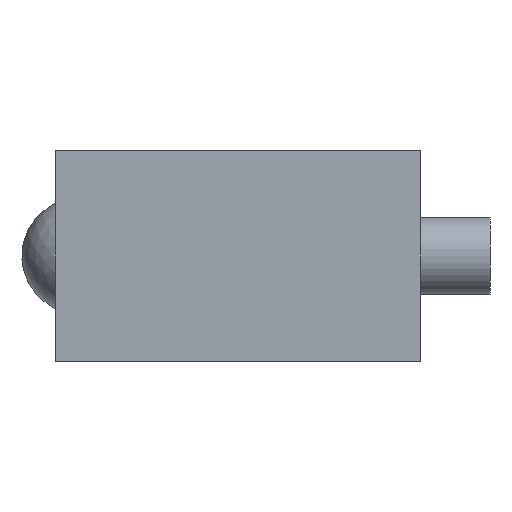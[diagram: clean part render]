
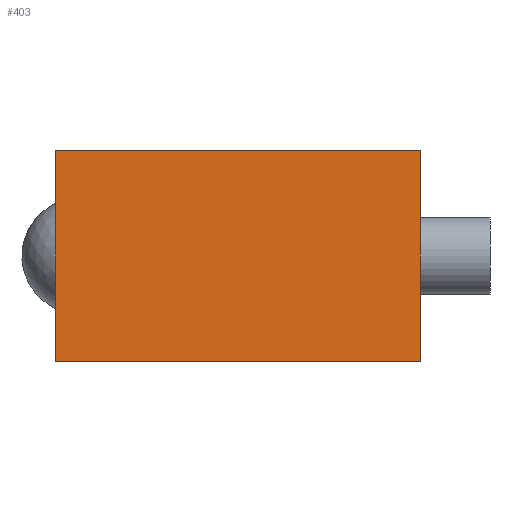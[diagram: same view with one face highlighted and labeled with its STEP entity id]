
A CAD part, left-side view. The second image highlights one B-rep face of the part: STEP entity #403.
In plain terms, the highlighted planar face has unit normal (-1, 0, 0).
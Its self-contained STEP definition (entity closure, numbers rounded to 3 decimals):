
#21=LINE('',#667,#37);
#27=LINE('',#682,#43);
#31=LINE('',#694,#47);
#33=LINE('',#697,#49);
#37=VECTOR('',#564,10.);
#43=VECTOR('',#574,10.);
#47=VECTOR('',#590,10.);
#49=VECTOR('',#594,10.);
#80=PLANE('',#475);
#108=FACE_OUTER_BOUND('',#154,.T.);
#154=EDGE_LOOP('',(#321,#322,#323,#324));
#202=VERTEX_POINT('',#665);
#203=VERTEX_POINT('',#666);
#209=VERTEX_POINT('',#679);
#210=VERTEX_POINT('',#681);
#236=EDGE_CURVE('',#202,#203,#21,.T.);
#243=EDGE_CURVE('',#209,#210,#27,.T.);
#249=EDGE_CURVE('',#210,#202,#31,.T.);
#251=EDGE_CURVE('',#203,#209,#33,.T.);
#321=ORIENTED_EDGE('',*,*,#243,.F.);
#322=ORIENTED_EDGE('',*,*,#251,.F.);
#323=ORIENTED_EDGE('',*,*,#236,.F.);
#324=ORIENTED_EDGE('',*,*,#249,.F.);
#403=ADVANCED_FACE('',(#108),#80,.T.);
#475=AXIS2_PLACEMENT_3D('',#696,#592,#593);
#564=DIRECTION('',(0.,0.,1.));
#574=DIRECTION('',(0.,0.,-1.));
#590=DIRECTION('',(0.,1.,0.));
#592=DIRECTION('center_axis',(-1.,0.,0.));
#593=DIRECTION('ref_axis',(0.,-1.,0.));
#594=DIRECTION('',(0.,-1.,0.));
#665=CARTESIAN_POINT('',(-225.,18.9,-10.9));
#666=CARTESIAN_POINT('',(-225.,18.9,10.9));
#667=CARTESIAN_POINT('',(-225.,18.9,0.));
#679=CARTESIAN_POINT('',(-225.,-18.9,10.9));
#681=CARTESIAN_POINT('',(-225.,-18.9,-10.9));
#682=CARTESIAN_POINT('',(-225.,-18.9,0.));
#694=CARTESIAN_POINT('',(-225.,18.9,-10.9));
#696=CARTESIAN_POINT('Origin',(-225.,18.9,0.));
#697=CARTESIAN_POINT('',(-225.,18.9,10.9));
